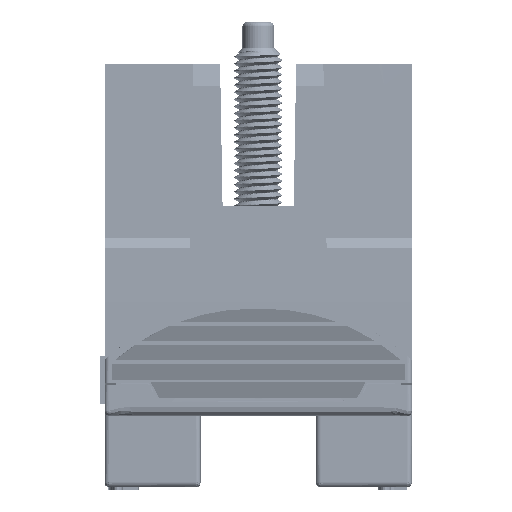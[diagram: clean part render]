
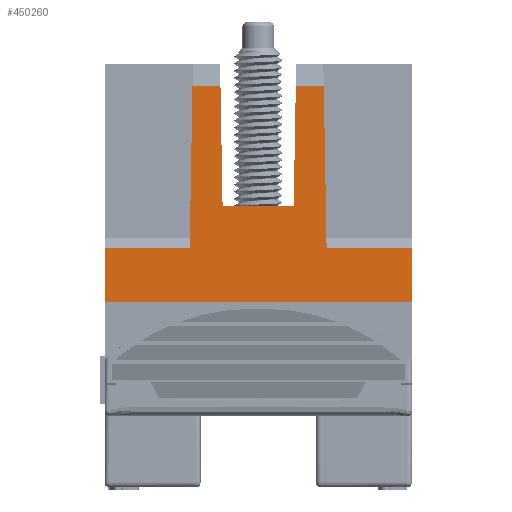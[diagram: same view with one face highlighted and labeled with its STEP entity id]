
A CAD part, front view. The second image highlights one B-rep face of the part: STEP entity #450260.
In plain terms, the highlighted planar face has unit normal (0, -1, 0.009).
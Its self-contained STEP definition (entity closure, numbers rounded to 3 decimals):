
#19641=DIRECTION('',(0.,-0.009,-1.));
#19642=VECTOR('',#19641,3.783);
#19643=CARTESIAN_POINT('',(10.8,-57.967,16.283));
#19644=LINE('',#19643,#19642);
#52887=DIRECTION('',(0.,-0.009,-1.));
#52888=VECTOR('',#52887,3.783);
#52889=CARTESIAN_POINT('',(-10.8,-57.967,16.283));
#52890=LINE('',#52889,#52888);
#53176=DIRECTION('',(-0.017,-0.009,-1.));
#53177=VECTOR('',#53176,8.497);
#53178=CARTESIAN_POINT('',(2.648,-57.867,
27.695));
#53179=LINE('',#53178,#53177);
#53180=DIRECTION('',(1.,0.,0.));
#53181=VECTOR('',#53180,1.965);
#53182=CARTESIAN_POINT('',(2.648,-57.867,
27.695));
#53183=LINE('',#53182,#53181);
#53184=DIRECTION('',(0.017,-0.009,-1.));
#53185=VECTOR('',#53184,11.414);
#53186=CARTESIAN_POINT('',(4.613,-57.867,
27.695));
#53187=LINE('',#53186,#53185);
#53188=DIRECTION('',(-1.,0.,0.));
#53189=VECTOR('',#53188,5.987);
#53190=CARTESIAN_POINT('',(10.8,-57.967,16.283));
#53191=LINE('',#53190,#53189);
#53192=DIRECTION('',(1.,0.,0.));
#53193=VECTOR('',#53192,5.987);
#53194=CARTESIAN_POINT('',(-10.8,-57.967,16.283));
#53195=LINE('',#53194,#53193);
#53196=DIRECTION('',(-0.017,-0.009,-1.));
#53197=VECTOR('',#53196,11.414);
#53198=CARTESIAN_POINT('',(-4.613,-57.867,
27.695));
#53199=LINE('',#53198,#53197);
#53200=DIRECTION('',(1.,0.,0.));
#53201=VECTOR('',#53200,1.965);
#53202=CARTESIAN_POINT('',(-4.613,-57.867,
27.695));
#53203=LINE('',#53202,#53201);
#53204=DIRECTION('',(0.017,-0.009,-1.));
#53205=VECTOR('',#53204,8.497);
#53206=CARTESIAN_POINT('',(-2.648,-57.867,
27.695));
#53207=LINE('',#53206,#53205);
#53208=DIRECTION('',(1.,0.,0.));
#53209=VECTOR('',#53208,5.);
#53210=CARTESIAN_POINT('',(-2.5,-57.942,19.2));
#53211=LINE('',#53210,#53209);
#53220=DIRECTION('',(1.,0.,0.));
#53221=VECTOR('',#53220,21.6);
#53222=CARTESIAN_POINT('',(-10.8,-58.,12.5));
#53223=LINE('',#53222,#53221);
#391699=CARTESIAN_POINT('',(-10.8,-57.967,16.283));
#391700=CARTESIAN_POINT('',(-10.8,-58.,12.5));
#391701=VERTEX_POINT('',#391699);
#391702=VERTEX_POINT('',#391700);
#391703=CARTESIAN_POINT('',(10.8,-57.967,16.283));
#391704=CARTESIAN_POINT('',(10.8,-58.,12.5));
#391705=VERTEX_POINT('',#391703);
#391706=VERTEX_POINT('',#391704);
#391719=CARTESIAN_POINT('',(-2.5,-57.942,19.2));
#391720=CARTESIAN_POINT('',(2.5,-57.942,19.2));
#391721=VERTEX_POINT('',#391719);
#391722=VERTEX_POINT('',#391720);
#391723=CARTESIAN_POINT('',(2.648,-57.867,
27.695));
#391724=VERTEX_POINT('',#391723);
#391725=CARTESIAN_POINT('',(-2.648,-57.867,
27.695));
#391726=VERTEX_POINT('',#391725);
#391731=CARTESIAN_POINT('',(-4.613,-57.867,
27.695));
#391732=CARTESIAN_POINT('',(-4.813,-57.967,
16.283));
#391733=VERTEX_POINT('',#391731);
#391734=VERTEX_POINT('',#391732);
#391735=CARTESIAN_POINT('',(4.613,-57.867,
27.695));
#391736=CARTESIAN_POINT('',(4.813,-57.967,
16.283));
#391737=VERTEX_POINT('',#391735);
#391738=VERTEX_POINT('',#391736);
#450238=CARTESIAN_POINT('',(12.376,-58.,12.5));
#450239=DIRECTION('',(0.,1.,-0.009));
#450240=DIRECTION('',(1.,0.,0.));
#450241=AXIS2_PLACEMENT_3D('',#450238,#450239,#450240);
#450242=PLANE('',#450241);
#450243=ORIENTED_EDGE('',*,*,#415856,.F.);
#450244=ORIENTED_EDGE('',*,*,#415871,.T.);
#450245=ORIENTED_EDGE('',*,*,#415886,.T.);
#450247=ORIENTED_EDGE('',*,*,#450246,.F.);
#450248=ORIENTED_EDGE('',*,*,#415974,.T.);
#450250=ORIENTED_EDGE('',*,*,#450249,.F.);
#450251=ORIENTED_EDGE('',*,*,#449942,.F.);
#450253=ORIENTED_EDGE('',*,*,#450252,.T.);
#450254=ORIENTED_EDGE('',*,*,#450200,.F.);
#450255=ORIENTED_EDGE('',*,*,#450215,.T.);
#450256=ORIENTED_EDGE('',*,*,#450229,.T.);
#450257=ORIENTED_EDGE('',*,*,#415839,.T.);
#450258=EDGE_LOOP('',(#450243,#450244,#450245,#450247,#450248,#450250,#450251,
#450253,#450254,#450255,#450256,#450257));
#450259=FACE_OUTER_BOUND('',#450258,.F.);
#450260=ADVANCED_FACE('',(#450259),#450242,.F.);
#415839=EDGE_CURVE('',#391721,#391722,#53211,.T.);
#415856=EDGE_CURVE('',#391724,#391722,#53179,.T.);
#415871=EDGE_CURVE('',#391724,#391737,#53183,.T.);
#415886=EDGE_CURVE('',#391737,#391738,#53187,.T.);
#415974=EDGE_CURVE('',#391705,#391706,#19644,.T.);
#449942=EDGE_CURVE('',#391701,#391702,#52890,.T.);
#450200=EDGE_CURVE('',#391733,#391734,#53199,.T.);
#450215=EDGE_CURVE('',#391733,#391726,#53203,.T.);
#450229=EDGE_CURVE('',#391726,#391721,#53207,.T.);
#450246=EDGE_CURVE('',#391705,#391738,#53191,.T.);
#450249=EDGE_CURVE('',#391702,#391706,#53223,.T.);
#450252=EDGE_CURVE('',#391701,#391734,#53195,.T.);
